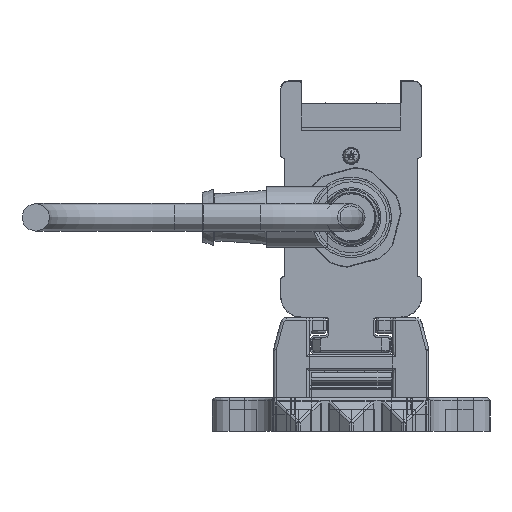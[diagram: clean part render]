
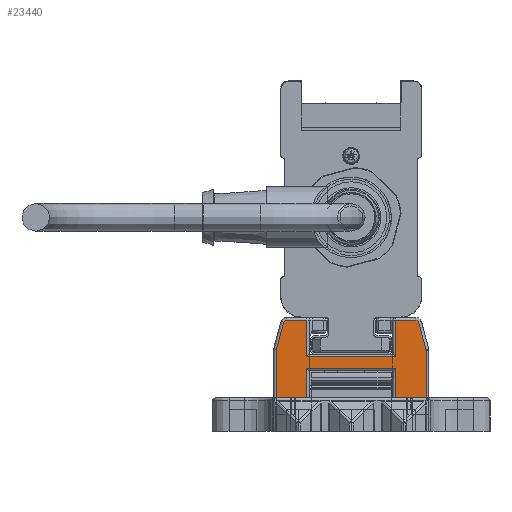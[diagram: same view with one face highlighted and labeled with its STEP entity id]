
A CAD part, left-side view. The second image highlights one B-rep face of the part: STEP entity #23440.
In plain terms, the highlighted planar face has unit normal (-1, 0, 0).
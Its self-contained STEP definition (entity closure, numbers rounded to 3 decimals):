
#23440=ADVANCED_FACE('', (#23450), #23460, .T.);
#165170=AXIS2_PLACEMENT_3D('Ax2Pl3d', #165180, #165190, #165200);
#165410=AXIS2_PLACEMENT_3D('Ax2Pl3d', #165420, #165430, #165440);
#170290=AXIS2_PLACEMENT_3D('Ax2Pl3d', #170300, #170310, #170320);
#175370=AXIS2_PLACEMENT_3D('Ax2Pl3d', #175380, #175390, #175400);
#185050=AXIS2_PLACEMENT_3D('Ax2Pl3d', #185060, #185070, #185080);
#714080=CARTESIAN_POINT('', (-747.669,-4566.345,
331.37));
#165180=CARTESIAN_POINT('HicPkt', (-747.669,-4565.379,
331.111));
#714090=CARTESIAN_POINT('', (-747.669,-4566.379,331.111)
);
#714100=CARTESIAN_POINT('', (-747.669,-4565.037,
336.255));
#714120=CARTESIAN_POINT('', (-747.669,-4565.037,
336.255));
#714150=CARTESIAN_POINT('', (-747.669,-4564.554,
336.625));
#165420=CARTESIAN_POINT('HicPkt', (-747.669,-4564.554,
336.125));
#714370=CARTESIAN_POINT('', (-747.669,-4566.379,322.625)
);
#714380=CARTESIAN_POINT('', (-747.669,-4560.881,322.625)
);
#714390=CARTESIAN_POINT('', (-747.669,-4560.881,322.625)
);
#714470=CARTESIAN_POINT('', (-747.669,-4544.881,322.625)
);
#714480=CARTESIAN_POINT('', (-747.669,-4539.383,322.625)
);
#714490=CARTESIAN_POINT('', (-747.669,-4539.383,322.625)
);
#170300=CARTESIAN_POINT('HicPkt', (-747.669,-4541.209,
336.125));
#716960=CARTESIAN_POINT('', (-747.669,-4540.726,
336.255));
#716970=CARTESIAN_POINT('', (-747.669,-4541.209,
336.625));
#716980=CARTESIAN_POINT('', (-747.669,-4560.881,
330.025));
#716990=CARTESIAN_POINT('', (-747.669,-4544.881,
330.025));
#717000=CARTESIAN_POINT('', (-747.669,-4560.881,
330.025));
#717160=CARTESIAN_POINT('', (-747.669,-4560.881,
328.005));
#717170=CARTESIAN_POINT('', (-747.669,-4544.881,
328.005));
#717180=CARTESIAN_POINT('', (-747.669,-4544.881,
328.005));
#717190=CARTESIAN_POINT('', (-747.669,-4560.881,
328.005));
#717210=CARTESIAN_POINT('', (-747.669,-4544.881,322.625)
);
#717220=CARTESIAN_POINT('', (-747.669,-4544.881,
330.025));
#717230=CARTESIAN_POINT('', (-747.669,-4544.881,
336.625));
#718080=CARTESIAN_POINT('', (-747.669,-4544.881,
336.625));
#718090=CARTESIAN_POINT('', (-747.669,-4540.726,
336.255));
#718100=CARTESIAN_POINT('', (-747.669,-4539.417,
331.37));
#718290=CARTESIAN_POINT('', (-747.669,-4539.383,331.111)
);
#718300=CARTESIAN_POINT('', (-747.669,-4539.383,331.111)
);
#175380=CARTESIAN_POINT('HicPkt', (-747.669,-4540.383,
331.111));
#719110=CARTESIAN_POINT('', (-747.669,-4566.379,331.111)
);
#185060=CARTESIAN_POINT('HicPkt', (-747.669,-4564.554,
336.625));
#720910=CARTESIAN_POINT('', (-747.669,-4560.881,
336.625));
#720920=CARTESIAN_POINT('', (-747.669,-4560.881,
336.625));
#720930=CARTESIAN_POINT('', (-747.669,-4560.881,
336.625));
#828200=CIRCLE('Circle', #165170, 1.);
#828240=CIRCLE('Circle', #165410, 0.5);
#828820=CIRCLE('Circle', #170290, 0.5);
#829350=CIRCLE('Circle', #175370, 1.);
#165190=DIRECTION('Axis', (-1.,0.,
0.));
#165200=DIRECTION('RefDirection', (0.,
0.,-1.));
#1155220=DIRECTION('', (0.,0.259,
0.966));
#165430=DIRECTION('Axis', (-1.,0.,
0.));
#165440=DIRECTION('RefDirection', (0.,
0.,-1.));
#1155330=DIRECTION('', (0.,1.,0.));
#1155370=DIRECTION('', (0.,1.,0.));
#170310=DIRECTION('Axis', (1.,0.,
0.));
#170320=DIRECTION('RefDirection', (0.,
0.,-1.));
#1156560=DIRECTION('', (0.,-1.,0.));
#1156660=DIRECTION('', (0.,1.,0.));
#1156670=DIRECTION('', (0.,0.,1.));
#1156690=DIRECTION('', (0.,0.,-1.));
#1156700=DIRECTION('', (0.,0.,-1.));
#1157130=DIRECTION('', (0.,-1.,0.))
;
#1157140=DIRECTION('', (0.,-0.259,0.966));
#1157230=DIRECTION('', (0.,0.,1.));
#175390=DIRECTION('Axis', (1.,0.,
0.));
#175400=DIRECTION('RefDirection', (0.,
0.,-1.));
#1157600=DIRECTION('', (0.,0.,1.));
#185070=DIRECTION('Axis', (-1.,0.,
0.));
#185080=DIRECTION('RefDirection', (0.,
0.,-1.));
#1158440=DIRECTION('', (0.,1.,0.));
#1158450=DIRECTION('', (0.,0.,1.));
#1233130=EDGE_CURVE('', #1233140, #1233120, #828200, .T.);
#1233190=EDGE_CURVE('', #1233120, #1233170, #1233200, .T.);
#1233260=EDGE_CURVE('', #1233170, #1233250, #828240, .T.);
#1233710=EDGE_CURVE('', #1233700, #1233720, #1233730, .T.);
#1233870=EDGE_CURVE('', #1233860, #1233880, #1233890, .T.);
#1238230=EDGE_CURVE('', #1238240, #1238250, #828820, .T.);
#1238280=EDGE_CURVE('', #1238290, #1238300, #1238310, .T.);
#1238650=EDGE_CURVE('', #1238630, #1238660, #1238670, .T.);
#1238700=EDGE_CURVE('', #1233720, #1238630, #1238710, .T.);
#1238740=EDGE_CURVE('', #1238660, #1233860, #1238750, .T.);
#1238760=EDGE_CURVE('', #1238770, #1238290, #1238780, .T.);
#1240600=EDGE_CURVE('', #1238250, #1238770, #1240610, .T.);
#1240670=EDGE_CURVE('', #1240680, #1238240, #1240690, .T.);
#1241110=EDGE_CURVE('', #1233880, #1241120, #1241130, .T.);
#1241150=EDGE_CURVE('', #1241120, #1240680, #829350, .T.);
#1242860=EDGE_CURVE('', #1233700, #1233140, #1242870, .T.);
#1246670=EDGE_CURVE('', #1233250, #1246680, #1246690, .T.);
#1246700=EDGE_CURVE('', #1238300, #1246680, #1246710, .T.);
#1483650=EDGE_LOOP('Edge_loop', (#1483660,#1483670,#1483680,#1483690,
#1483700,#1483710,#1483720,#1483730,#1483740,#1483750,#1483760,
#1483770,#1483780,#1483790,#1483800,#1483810,#1483820,#1483830));
#23450=FACE_OUTER_BOUND('Face_outer_bound', #1483650, .T.);
#1233200=LINE('Line', #714120, #1704690);
#1233730=LINE('Line', #714380, #1704800);
#1233890=LINE('Line', #714480, #1704840);
#1238310=LINE('Line', #716980, #1706030);
#1238670=LINE('Line', #717170, #1706130);
#1238710=LINE('Line', #717190, #1706140);
#1238750=LINE('Line', #717210, #1706160);
#1238780=LINE('Line', #717220, #1706170);
#1240610=LINE('Line', #718080, #1706600);
#1240690=LINE('Line', #718090, #1706610);
#1241130=LINE('Line', #718290, #1706700);
#1242870=LINE('Line', #719110, #1707070);
#1246690=LINE('Line', #720910, #1707910);
#1246710=LINE('Line', #720930, #1707920);
#1483660=ORIENTED_EDGE('', *, *, #1246670, .T.);
#1483670=ORIENTED_EDGE('', *, *, #1246700, .F.);
#1483680=ORIENTED_EDGE('', *, *, #1238280, .F.);
#1483690=ORIENTED_EDGE('', *, *, #1238760, .F.);
#1483700=ORIENTED_EDGE('', *, *, #1240600, .F.);
#1483710=ORIENTED_EDGE('', *, *, #1238230, .F.);
#1483720=ORIENTED_EDGE('', *, *, #1240670, .F.);
#1483730=ORIENTED_EDGE('', *, *, #1241150, .F.);
#1483740=ORIENTED_EDGE('', *, *, #1241110, .F.);
#1483750=ORIENTED_EDGE('', *, *, #1233870, .F.);
#1483760=ORIENTED_EDGE('', *, *, #1238740, .F.);
#1483770=ORIENTED_EDGE('', *, *, #1238650, .F.);
#1483780=ORIENTED_EDGE('', *, *, #1238700, .F.);
#1483790=ORIENTED_EDGE('', *, *, #1233710, .F.);
#1483800=ORIENTED_EDGE('', *, *, #1242860, .T.);
#1483810=ORIENTED_EDGE('', *, *, #1233130, .T.);
#1483820=ORIENTED_EDGE('', *, *, #1233190, .T.);
#1483830=ORIENTED_EDGE('', *, *, #1233260, .T.);
#23460=PLANE('Plane', #185050);
#1704690=VECTOR('', #1155220, 5.057);
#1704800=VECTOR('', #1155330, 5.498);
#1704840=VECTOR('', #1155370, 5.498);
#1706030=VECTOR('', #1156560, 16.);
#1706130=VECTOR('', #1156660, 16.);
#1706140=VECTOR('', #1156670, 5.38);
#1706160=VECTOR('', #1156690, 5.38);
#1706170=VECTOR('', #1156700, 6.6);
#1706600=VECTOR('', #1157130, 3.672);
#1706610=VECTOR('', #1157140, 5.057);
#1706700=VECTOR('', #1157230, 8.486);
#1707070=VECTOR('', #1157600, 8.486);
#1707910=VECTOR('', #1158440, 3.672);
#1707920=VECTOR('', #1158450, 6.6);
#1233120=VERTEX_POINT('', #714080);
#1233140=VERTEX_POINT('', #714090);
#1233170=VERTEX_POINT('', #714100);
#1233250=VERTEX_POINT('', #714150);
#1233700=VERTEX_POINT('', #714370);
#1233720=VERTEX_POINT('', #714390);
#1233860=VERTEX_POINT('', #714470);
#1233880=VERTEX_POINT('', #714490);
#1238240=VERTEX_POINT('', #716960);
#1238250=VERTEX_POINT('', #716970);
#1238290=VERTEX_POINT('', #716990);
#1238300=VERTEX_POINT('', #717000);
#1238630=VERTEX_POINT('', #717160);
#1238660=VERTEX_POINT('', #717180);
#1238770=VERTEX_POINT('', #717230);
#1240680=VERTEX_POINT('', #718100);
#1241120=VERTEX_POINT('', #718300);
#1246680=VERTEX_POINT('', #720920);
